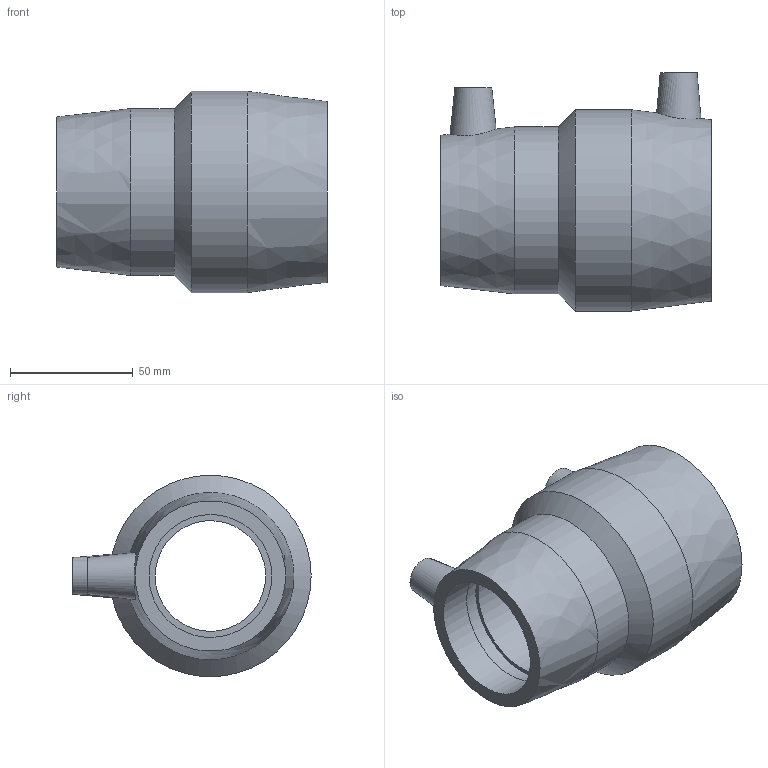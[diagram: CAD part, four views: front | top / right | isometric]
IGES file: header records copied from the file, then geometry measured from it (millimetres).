
Global section: file name: 491104063050; native system: Autodesk Inventor 2019; preprocessor: unknown; author: KIM; date: 20220629.142530; units: millimetre
Bounding box: 110 x 97 x 82 mm (x, y, z)
Volume: 194050.3 mm3; surface area: 52802.2 mm2
Topology: 1 solids, 1 shells, 31 faces, 72 edges, 53 vertices
Faces by surface type: bspline 31
